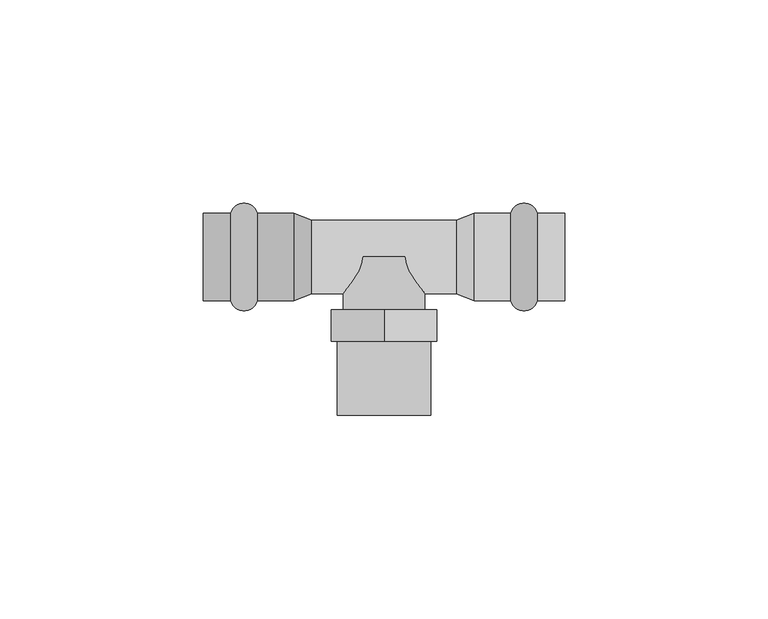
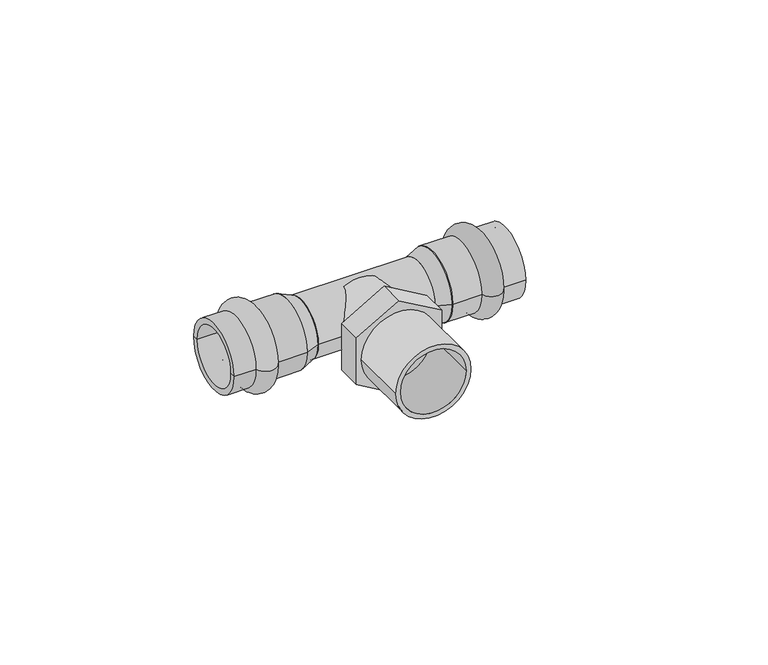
"""IFC4 building model written with IfcOpenShell, lengths in millimetres: pipe fitting geometry, VALTEC_VTi.933.I_Тройник с переходом на наружную  резьбу нержавеющая сталь : VTi.933.I."""

from ifc_helpers import new_model, si_unit, point, frame, origin, origin_2d, place, context, project, spatial, polyline, circle_curve, ellipse_curve, trimmed, segment, composite_curve, outline, extrude, source, transform, mapped, element, save
from ifc_brep_helpers import plane_surface, cylinder_surface, revolved_surface, advanced_brep


def pipe_fitting_f5731484(model_context):
    return source(origin(), model_context, "Body", "SolidModel", [
        advanced_brep(
        [(37.7287193, 10.75, 0.0), (37.7287193, -10.75, 0.0), (31.1712807, -10.75, 0.0), (31.1712807, 10.75, 0.0), (44.5, 10.75, 0.0), (44.5, -10.75, 0.0), (44.5, 9.0, 0.0), (44.5, -9.0, 0.0), (22.25, 9.0, 0.0), (22.25, -9.0, 0.0), (22.25, 10.75, 0.0), (22.25, -10.75, 0.0)],
        [
            (0, 1, circle_curve(frame((37.7287193, 0.0, 0.0), z_axis=(-1.0, 0.0, 0.0), x_axis=(0.0, -1.0, 0.0)), 10.75)),
            (1, 2, circle_curve(frame((34.45, -9.85, 0.0), z_axis=(0.0, 0.0, -1.0), x_axis=(-1.0, 0.0, 0.0)), 3.4)),
            (2, 3, circle_curve(frame((31.1712807, 0.0, 0.0), z_axis=(1.0, 0.0, 0.0), x_axis=(0.0, -1.0, 0.0)), 10.75)),
            (3, 0, circle_curve(frame((34.45, 9.85, 0.0), z_axis=(0.0, 0.0, -1.0), x_axis=(-1.0, 0.0, 0.0)), 3.4)),
            (1, 0, circle_curve(frame((37.7287193, 0.0, 0.0), z_axis=(-1.0, 0.0, 0.0), x_axis=(0.0, -1.0, 0.0)), 10.75)),
            (3, 2, circle_curve(frame((31.1712807, 0.0, 0.0), z_axis=(1.0, 0.0, 0.0), x_axis=(0.0, -1.0, 0.0)), 10.75)),
            (4, 5, circle_curve(frame((44.5, 0.0, 0.0), z_axis=(-1.0, 0.0, 0.0), x_axis=(0.0, -1.0, 0.0)), 10.75)),
            (5, 1),
            (0, 4),
            (5, 4, circle_curve(frame((44.5, 0.0, 0.0), z_axis=(-1.0, 0.0, 0.0), x_axis=(0.0, -1.0, 0.0)), 10.75)),
            (6, 7, circle_curve(frame((44.5, 0.0, 0.0), z_axis=(-1.0, 0.0, 0.0), x_axis=(0.0, -1.0, 0.0)), 9.0)),
            (7, 5),
            (4, 6),
            (7, 6, circle_curve(frame((44.5, 0.0, 0.0), z_axis=(-1.0, 0.0, 0.0), x_axis=(0.0, -1.0, 0.0)), 9.0)),
            (8, 9, circle_curve(frame((22.25, 0.0, 0.0), z_axis=(-1.0, 0.0, 0.0), x_axis=(0.0, -1.0, 0.0)), 9.0)),
            (9, 7),
            (6, 8),
            (9, 8, circle_curve(frame((22.25, 0.0, 0.0), z_axis=(-1.0, 0.0, 0.0), x_axis=(0.0, -1.0, 0.0)), 9.0)),
            (10, 11, circle_curve(frame((22.25, 0.0, 0.0), z_axis=(-1.0, 0.0, 0.0), x_axis=(0.0, -1.0, 0.0)), 10.75)),
            (11, 9),
            (8, 10),
            (11, 10, circle_curve(frame((22.25, 0.0, 0.0), z_axis=(-1.0, 0.0, 0.0), x_axis=(0.0, -1.0, 0.0)), 10.75)),
            (2, 11),
            (10, 3),
        ],
        [
            revolved_surface(trimmed(ellipse_curve(frame((34.45, -9.85, 0.0), z_axis=(0.0, 0.0, 1.0), x_axis=(-1.0, 0.0, 0.0)), 3.4, 3.4), [point((31.1712807, -10.75, 0.0))], [point((37.7287193, -10.75, 0.0))], True, "CARTESIAN"), (48.0364426, 0.0, 0.0), (1.0, 0.0, 0.0)),
            cylinder_surface(frame((48.0364426, 0.0, 0.0), z_axis=(1.0, 0.0, 0.0), x_axis=(0.0, -1.0, 0.0)), 10.75),
            plane_surface(frame((44.5, 0.0, 0.0), z_axis=(1.0, 0.0, 0.0), x_axis=(0.0, -1.0, 0.0))),
            revolved_surface(polyline([(44.5, -9.0, 0.0), (22.25, -9.0, 0.0)]), (48.0364426, 0.0, 0.0), (1.0, 0.0, 0.0)),
            plane_surface(frame((22.25, 0.0, 0.0), z_axis=(-1.0, 0.0, 0.0), x_axis=(0.0, -1.0, 0.0))),
        ],
        [
            (0, [[1, 2, 3, 4]]),
            (0, [[5, -4, 6, -2]]),
            (1, [[7, 8, -1, 9]]),
            (1, [[10, -9, -5, -8]]),
            (2, [[11, 12, -7, 13]]),
            (2, [[14, -13, -10, -12]]),
            (3, [[15, 16, -11, 17]]),
            (3, [[18, -17, -14, -16]]),
            (4, [[19, 20, -15, 21]]),
            (4, [[22, -21, -18, -20]]),
            (1, [[-3, 23, -19, 24]]),
            (1, [[-6, -24, -22, -23]]),
        ],
    ),
        advanced_brep(
        [(-37.7287193, -10.75, 0.0), (-37.7287193, 10.75, 0.0), (-31.1712807, 10.75, 0.0), (-31.1712807, -10.75, 0.0), (-44.5, -10.75, 0.0), (-44.5, 10.75, 0.0), (-44.5, -9.0, 0.0), (-44.5, 9.0, 0.0), (-22.25, -9.0, 0.0), (-22.25, 9.0, 0.0), (-22.25, -10.75, 0.0), (-22.25, 10.75, 0.0)],
        [
            (0, 1, circle_curve(frame((-37.7287193, 0.0, 0.0), z_axis=(1.0, 0.0, 0.0), x_axis=(0.0, 1.0, 0.0)), 10.75)),
            (1, 2, circle_curve(frame((-34.45, 9.85, 0.0), z_axis=(0.0, 0.0, -1.0), x_axis=(1.0, 0.0, 0.0)), 3.4)),
            (2, 3, circle_curve(frame((-31.1712807, 0.0, 0.0), z_axis=(-1.0, 0.0, 0.0), x_axis=(0.0, 1.0, 0.0)), 10.75)),
            (3, 0, circle_curve(frame((-34.45, -9.85, 0.0), z_axis=(0.0, 0.0, -1.0), x_axis=(1.0, 0.0, 0.0)), 3.4)),
            (1, 0, circle_curve(frame((-37.7287193, 0.0, 0.0), z_axis=(1.0, 0.0, 0.0), x_axis=(0.0, 1.0, 0.0)), 10.75)),
            (3, 2, circle_curve(frame((-31.1712807, 0.0, 0.0), z_axis=(-1.0, 0.0, 0.0), x_axis=(0.0, 1.0, 0.0)), 10.75)),
            (4, 5, circle_curve(frame((-44.5, 0.0, 0.0), z_axis=(1.0, 0.0, 0.0), x_axis=(0.0, 1.0, 0.0)), 10.75)),
            (5, 1),
            (0, 4),
            (5, 4, circle_curve(frame((-44.5, 0.0, 0.0), z_axis=(1.0, 0.0, 0.0), x_axis=(0.0, 1.0, 0.0)), 10.75)),
            (6, 7, circle_curve(frame((-44.5, 0.0, 0.0), z_axis=(1.0, 0.0, 0.0), x_axis=(0.0, 1.0, 0.0)), 9.0)),
            (7, 5),
            (4, 6),
            (7, 6, circle_curve(frame((-44.5, 0.0, 0.0), z_axis=(1.0, 0.0, 0.0), x_axis=(0.0, 1.0, 0.0)), 9.0)),
            (8, 9, circle_curve(frame((-22.25, 0.0, 0.0), z_axis=(1.0, 0.0, 0.0), x_axis=(0.0, 1.0, 0.0)), 9.0)),
            (9, 7),
            (6, 8),
            (9, 8, circle_curve(frame((-22.25, 0.0, 0.0), z_axis=(1.0, 0.0, 0.0), x_axis=(0.0, 1.0, 0.0)), 9.0)),
            (10, 11, circle_curve(frame((-22.25, 0.0, 0.0), z_axis=(1.0, 0.0, 0.0), x_axis=(0.0, 1.0, 0.0)), 10.75)),
            (11, 9),
            (8, 10),
            (11, 10, circle_curve(frame((-22.25, 0.0, 0.0), z_axis=(1.0, 0.0, 0.0), x_axis=(0.0, 1.0, 0.0)), 10.75)),
            (2, 11),
            (10, 3),
        ],
        [
            revolved_surface(trimmed(ellipse_curve(frame((-34.45, 9.85, 0.0), z_axis=(0.0, 0.0, 1.0), x_axis=(1.0, 0.0, 0.0)), 3.4, 3.4), [point((-31.1712807, 10.75, 0.0))], [point((-37.7287193, 10.75, 0.0))], True, "CARTESIAN"), (-48.0364426, 0.0, 0.0), (-1.0, 0.0, 0.0)),
            cylinder_surface(frame((-48.0364426, 0.0, 0.0), z_axis=(-1.0, 0.0, 0.0), x_axis=(0.0, 1.0, 0.0)), 10.75),
            plane_surface(frame((-44.5, 0.0, 0.0), z_axis=(-1.0, 0.0, 0.0), x_axis=(0.0, 1.0, 0.0))),
            revolved_surface(polyline([(-44.5, 9.0, 0.0), (-22.25, 9.0, 0.0)]), (-48.0364426, 0.0, 0.0), (-1.0, 0.0, 0.0)),
            plane_surface(frame((-22.25, 0.0, 0.0), z_axis=(1.0, 0.0, 0.0), x_axis=(0.0, 1.0, 0.0))),
        ],
        [
            (0, [[1, 2, 3, 4]]),
            (0, [[5, -4, 6, -2]]),
            (1, [[7, 8, -1, 9]]),
            (1, [[10, -9, -5, -8]]),
            (2, [[11, 12, -7, 13]]),
            (2, [[14, -13, -10, -12]]),
            (3, [[15, 16, -11, 17]]),
            (3, [[18, -17, -14, -16]]),
            (4, [[19, 20, -15, 21]]),
            (4, [[22, -21, -18, -20]]),
            (1, [[-3, 23, -19, 24]]),
            (1, [[-6, -24, -22, -23]]),
        ],
    ),
        extrude(outline(composite_curve([segment(trimmed(circle_curve(origin_2d(), 11.5), [point((0.0, -11.5))], [point((0.0, 11.5))], False, "CARTESIAN"), True, "CONTINUOUS"), segment(trimmed(circle_curve(origin_2d(), 11.5), [point((0.0, 11.5))], [point((0.0, -11.5))], False, "CARTESIAN"), True, "CONTINUOUS")], self_intersect=False), holes=[composite_curve([segment(trimmed(circle_curve(origin_2d(), 10.0), [point((0.0, -10.0))], [point((0.0, 10.0))], True, "CARTESIAN"), True, "CONTINUOUS"), segment(trimmed(circle_curve(origin_2d(), 10.0), [point((0.0, 10.0))], [point((0.0, -10.0))], True, "CARTESIAN"), True, "CONTINUOUS")], self_intersect=False)]), frame((0.0, -39.0, 0.0), z_axis=(0.0, 1.0, 0.0), x_axis=(0.0, 0.0, 1.0)), (0.0, 0.0, 1.0), 18.2),
        extrude(outline(polyline([(15.011107, 0.0), (7.5055535, -13.0), (-7.5055535, -13.0), (-15.011107, 0.0), (-7.5055535, 13.0), (7.5055535, 13.0), (15.011107, 0.0)]), holes=[composite_curve([segment(trimmed(circle_curve(origin_2d(), 10.0), [point((0.0, -10.0))], [point((0.0, 10.0))], True, "CARTESIAN"), True, "CONTINUOUS"), segment(trimmed(circle_curve(origin_2d(), 10.0), [point((0.0, 10.0))], [point((0.0, -10.0))], True, "CARTESIAN"), True, "CONTINUOUS")], self_intersect=False)]), frame((0.0, -20.8, 0.0), z_axis=(0.0, 1.0, 0.0), x_axis=(0.0, 0.0, 1.0)), (0.0, 0.0, 1.0), 7.8),
        extrude(outline(composite_curve([segment(trimmed(circle_curve(origin_2d(), 10.0), [point((0.0, -10.0))], [point((0.0, 10.0))], False, "CARTESIAN"), True, "CONTINUOUS"), segment(trimmed(circle_curve(origin_2d(), 10.0), [point((0.0, 10.0))], [point((0.0, -10.0))], False, "CARTESIAN"), True, "CONTINUOUS")], self_intersect=False)), frame((0.0, -13.0, 0.0), z_axis=(0.0, 1.0, 0.0), x_axis=(0.0, 0.0, 1.0)), (0.0, 0.0, 1.0), 13.0),
        extrude(outline(composite_curve([segment(trimmed(circle_curve(origin_2d(), 9.0), [point((-9.0, 0.0))], [point((9.0, 0.0))], False, "CARTESIAN"), True, "CONTINUOUS"), segment(trimmed(circle_curve(origin_2d(), 9.0), [point((9.0, 0.0))], [point((-9.0, 0.0))], False, "CARTESIAN"), True, "CONTINUOUS")], self_intersect=False)), frame((-17.8, 0.0, 0.0), z_axis=(1.0, 0.0, 0.0), x_axis=(0.0, 1.0, 0.0)), (0.0, 0.0, 1.0), 35.6),
        advanced_brep(
        [(22.25, -10.75, 0.0), (22.25, 10.75, 0.0), (17.8, -9.0, 0.0), (17.8, 9.0, 0.0)],
        [
            (0, 1, circle_curve(frame((22.25, 0.0, 0.0), z_axis=(1.0, 0.0, 0.0), x_axis=(0.0, -1.0, 0.0)), 10.75)),
            (1, 0, circle_curve(frame((22.25, 0.0, 0.0), z_axis=(1.0, 0.0, 0.0), x_axis=(0.0, 1.0, 0.0)), 10.75)),
            (2, 3, circle_curve(frame((17.8, 0.0, 0.0), z_axis=(-1.0, 0.0, 0.0), x_axis=(0.0, 1.0, 0.0)), 9.0)),
            (3, 2, circle_curve(frame((17.8, 0.0, 0.0), z_axis=(-1.0, 0.0, 0.0), x_axis=(0.0, -1.0, 0.0)), 9.0)),
            (3, 1),
            (0, 2),
        ],
        [
            plane_surface(frame((22.25, 0.0, 0.0), z_axis=(1.0, 0.0, 0.0), x_axis=(0.0, 0.0, 1.0))),
            plane_surface(frame((17.8, 0.0, 0.0), z_axis=(-1.0, 0.0, 0.0), x_axis=(0.0, 0.0, 1.0))),
            revolved_surface(polyline([(17.8, 9.000000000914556, 0.0), (22.25, 10.75, 0.0)]), (-5.0857143, 0.0, 0.0), (1.0, 0.0, 0.0)),
            revolved_surface(polyline([(17.8, -9.000000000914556, 0.0), (22.25, -10.75, 0.0)]), (-5.0857143, 0.0, 0.0), (1.0, 0.0, 0.0)),
        ],
        [
            (0, [[1, 2]]),
            (1, [[3, 4]]),
            (2, [[-4, 5, -1, 6]]),
            (3, [[-3, -6, -2, -5]]),
        ],
    ),
        advanced_brep(
        [(-22.25, -10.75, 0.0), (-22.25, 10.75, 0.0), (-17.8, -9.0, 0.0), (-17.8, 9.0, 0.0)],
        [
            (0, 1, circle_curve(frame((-22.25, 0.0, 0.0), z_axis=(-1.0, 0.0, 0.0), x_axis=(0.0, -1.0, 0.0)), 10.75)),
            (1, 0, circle_curve(frame((-22.25, 0.0, 0.0), z_axis=(-1.0, 0.0, 0.0), x_axis=(0.0, 1.0, 0.0)), 10.75)),
            (2, 3, circle_curve(frame((-17.8, 0.0, 0.0), z_axis=(1.0, 0.0, 0.0), x_axis=(0.0, 1.0, 0.0)), 9.0)),
            (3, 2, circle_curve(frame((-17.8, 0.0, 0.0), z_axis=(1.0, 0.0, 0.0), x_axis=(0.0, -1.0, 0.0)), 9.0)),
            (2, 0),
            (1, 3),
        ],
        [
            plane_surface(frame((-22.25, 0.0, 0.0), z_axis=(-1.0, 0.0, 0.0), x_axis=(0.0, 0.0, -1.0))),
            plane_surface(frame((-17.8, 0.0, 0.0), z_axis=(1.0, 0.0, 0.0), x_axis=(0.0, 0.0, -1.0))),
            revolved_surface(polyline([(-17.8, -9.000000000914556, 0.0), (-22.25, -10.75, 0.0)]), (5.0857143, 0.0, 0.0), (-1.0, 0.0, 0.0)),
            revolved_surface(polyline([(-17.8, 9.000000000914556, 0.0), (-22.25, 10.75, 0.0)]), (5.0857143, 0.0, 0.0), (-1.0, 0.0, 0.0)),
        ],
        [
            (0, [[1, 2]]),
            (1, [[3, 4]]),
            (2, [[-3, 5, -2, 6]]),
            (3, [[-4, -6, -1, -5]]),
        ],
    ),
    ])


if __name__ == "__main__":
    model = new_model("IFC4")
    model_context = context("Model", 3, world=origin())
    ifc_project = project(units=[si_unit("LENGTHUNIT", "METRE", prefix="MILLI")], contexts=[model_context])
    site = spatial("IfcSite", under=ifc_project)
    building = spatial("IfcBuilding", under=site)
    placement = place(None, origin())
    pipe_fitting_shape = pipe_fitting_f5731484(model_context)
    element("IfcPipeFitting", 1, ObjectType="VALTEC_VTi.933.I_Тройник с переходом на наружную  резьбу нержавеющая сталь : VTi.933.I", at=placement, inside=building, context=model_context, shape_type="MappedRepresentation", body=[
        mapped(pipe_fitting_shape, transform((0.0, 0.0, 0.0), x_axis=(1.0, 0.0, 0.0), y_axis=(0.0, 1.0, 0.0), z_axis=(0.0, 0.0, 1.0))),
    ])
    save(model, "model.ifc")
